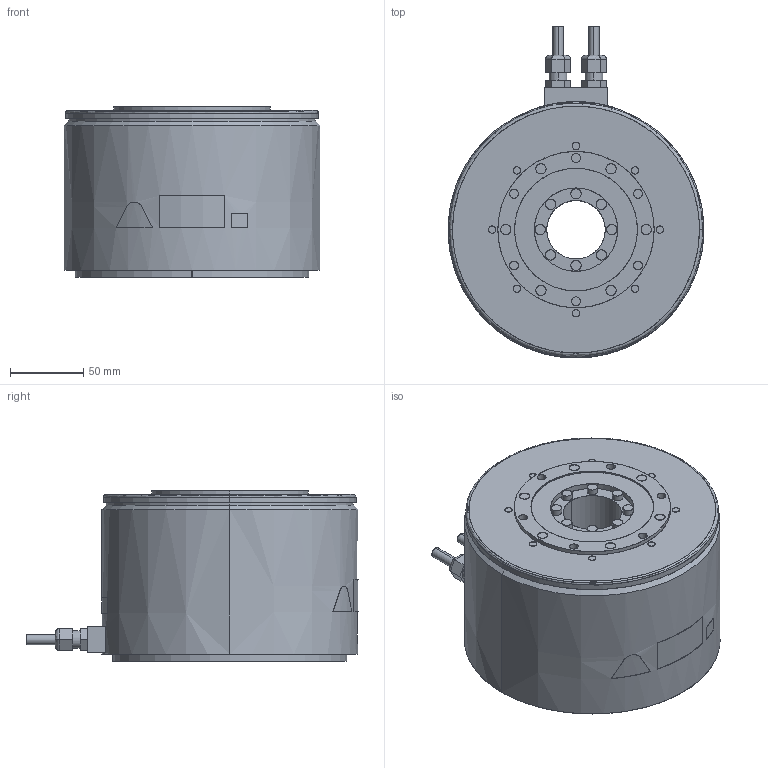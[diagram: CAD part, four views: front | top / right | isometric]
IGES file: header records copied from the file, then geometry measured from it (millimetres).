
Start section: SolidWorks IGES file using analytic representation for surfaces
Global section: file name: D:\YASKAWA\sgm7f_25c_a4_.IGS; native system: SolidWorks 2006 by SolidWorks Corporation; preprocessor: SolidWorks 2006 by SolidWorks Corporation; author: yamanouchi; date: 160724.152712; units: millimetre
Bounding box: 175 x 227.2 x 117 mm (x, y, z)
Surface area: 158720.8 mm2 (no closed solid volume)
Topology: 0 solids, 0 shells, 247 faces, 5412 edges, 5412 vertices
Faces by surface type: revolution 139, bspline 108
